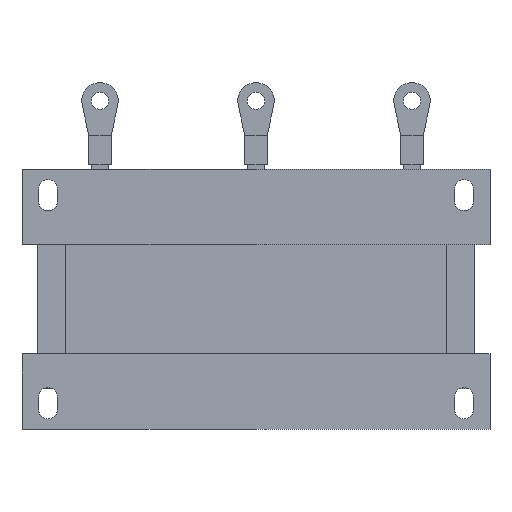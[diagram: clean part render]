
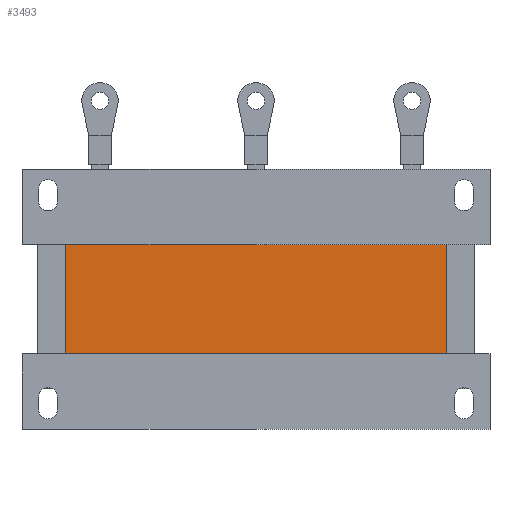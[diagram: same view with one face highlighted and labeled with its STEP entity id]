
A CAD part, front view. The second image highlights one B-rep face of the part: STEP entity #3493.
In plain terms, the highlighted planar face has unit normal (0, -1, 0).
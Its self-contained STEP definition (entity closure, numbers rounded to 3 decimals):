
#123=PLANE('',#3776);
#305=FACE_OUTER_BOUND('',#515,.T.);
#515=EDGE_LOOP('',(#2919,#2920,#2921,#2922));
#715=LINE('',#5093,#1149);
#740=LINE('',#5149,#1174);
#745=LINE('',#5160,#1179);
#871=LINE('',#5459,#1305);
#1149=VECTOR('',#4136,10.);
#1174=VECTOR('',#4183,10.);
#1179=VECTOR('',#4192,10.);
#1305=VECTOR('',#4444,10.);
#1643=VERTEX_POINT('',#5090);
#1644=VERTEX_POINT('',#5092);
#1663=VERTEX_POINT('',#5145);
#1664=VERTEX_POINT('',#5147);
#2003=EDGE_CURVE('',#1643,#1644,#715,.T.);
#2032=EDGE_CURVE('',#1664,#1663,#740,.T.);
#2037=EDGE_CURVE('',#1644,#1664,#745,.T.);
#2191=EDGE_CURVE('',#1663,#1643,#871,.T.);
#2919=ORIENTED_EDGE('',*,*,#2003,.F.);
#2920=ORIENTED_EDGE('',*,*,#2191,.F.);
#2921=ORIENTED_EDGE('',*,*,#2032,.F.);
#2922=ORIENTED_EDGE('',*,*,#2037,.F.);
#3493=ADVANCED_FACE('',(#305),#123,.F.);
#3776=AXIS2_PLACEMENT_3D('',#5460,#4445,#4446);
#4136=DIRECTION('',(1.,0.,0.));
#4183=DIRECTION('',(-1.,0.,0.));
#4192=DIRECTION('',(0.,0.,-1.));
#4444=DIRECTION('',(0.,0.,1.));
#4445=DIRECTION('center_axis',(0.,1.,0.));
#4446=DIRECTION('ref_axis',(0.,0.,1.));
#5090=CARTESIAN_POINT('',(-110.,2.,31.5));
#5092=CARTESIAN_POINT('',(110.,2.,31.5));
#5093=CARTESIAN_POINT('',(110.,2.,31.5));
#5145=CARTESIAN_POINT('',(-110.,2.,-31.5));
#5147=CARTESIAN_POINT('',(110.,2.,-31.5));
#5149=CARTESIAN_POINT('',(-110.,2.,-31.5));
#5160=CARTESIAN_POINT('',(110.,2.,15.75));
#5459=CARTESIAN_POINT('',(-110.,2.,-15.75));
#5460=CARTESIAN_POINT('Origin',(0.,2.,0.));
